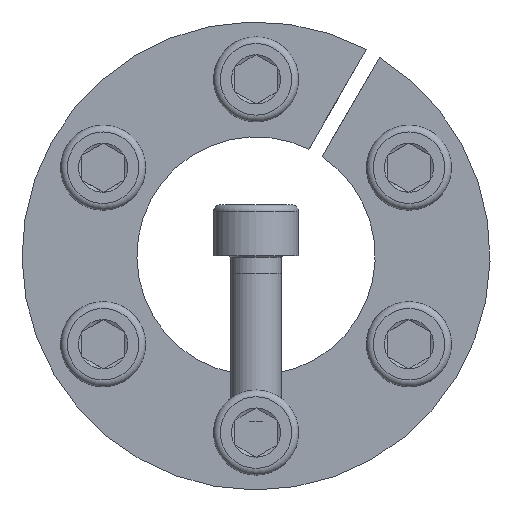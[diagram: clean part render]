
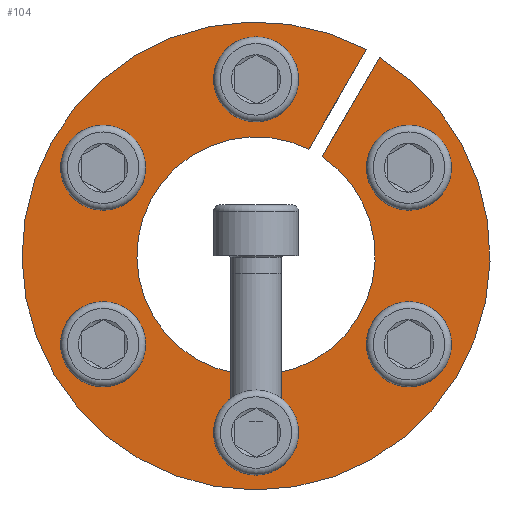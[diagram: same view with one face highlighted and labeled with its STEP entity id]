
A CAD part, front view. The second image highlights one B-rep face of the part: STEP entity #104.
In plain terms, the highlighted planar face has unit normal (0, -1, 0).
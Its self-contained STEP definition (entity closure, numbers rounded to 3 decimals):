
#104 = ADVANCED_FACE( '', ( #217, #218, #219, #220, #221, #222, #223 ), #224, .F. );
#217 = FACE_BOUND( '', #351, .T. );
#218 = FACE_BOUND( '', #352, .T. );
#219 = FACE_BOUND( '', #353, .T. );
#220 = FACE_OUTER_BOUND( '', #354, .T. );
#221 = FACE_BOUND( '', #355, .T. );
#222 = FACE_BOUND( '', #356, .T. );
#223 = FACE_BOUND( '', #357, .T. );
#224 = PLANE( '', #358 );
#351 = EDGE_LOOP( '', ( #580 ) );
#352 = EDGE_LOOP( '', ( #581 ) );
#353 = EDGE_LOOP( '', ( #582 ) );
#354 = EDGE_LOOP( '', ( #583, #584, #585, #586 ) );
#355 = EDGE_LOOP( '', ( #587 ) );
#356 = EDGE_LOOP( '', ( #588 ) );
#357 = EDGE_LOOP( '', ( #589 ) );
#358 = AXIS2_PLACEMENT_3D( '', #590, #591, #592 );
#580 = ORIENTED_EDGE( '', *, *, #720, .T. );
#581 = ORIENTED_EDGE( '', *, *, #746, .T. );
#582 = ORIENTED_EDGE( '', *, *, #735, .T. );
#583 = ORIENTED_EDGE( '', *, *, #754, .F. );
#584 = ORIENTED_EDGE( '', *, *, #759, .F. );
#585 = ORIENTED_EDGE( '', *, *, #711, .T. );
#586 = ORIENTED_EDGE( '', *, *, #764, .F. );
#587 = ORIENTED_EDGE( '', *, *, #743, .T. );
#588 = ORIENTED_EDGE( '', *, *, #723, .T. );
#589 = ORIENTED_EDGE( '', *, *, #717, .T. );
#590 = CARTESIAN_POINT( '', ( 0., 0., 27.5 ) );
#591 = DIRECTION( '', ( 0., 1., 0. ) );
#592 = DIRECTION( '', ( 0., 0., 1. ) );
#711 = EDGE_CURVE( '', #860, #861, #862, .T. );
#717 = EDGE_CURVE( '', #871, #871, #872, .T. );
#720 = EDGE_CURVE( '', #876, #876, #877, .T. );
#723 = EDGE_CURVE( '', #881, #881, #882, .T. );
#735 = EDGE_CURVE( '', #901, #901, #902, .T. );
#743 = EDGE_CURVE( '', #915, #915, #916, .T. );
#746 = EDGE_CURVE( '', #920, #920, #921, .T. );
#754 = EDGE_CURVE( '', #932, #934, #935, .T. );
#759 = EDGE_CURVE( '', #860, #932, #940, .T. );
#764 = EDGE_CURVE( '', #934, #861, #946, .T. );
#860 = VERTEX_POINT( '', #1133 );
#861 = VERTEX_POINT( '', #1134 );
#862 = CIRCLE( '', #1135, 27.5 );
#871 = VERTEX_POINT( '', #1146 );
#872 = CIRCLE( '', #1147, 3. );
#876 = VERTEX_POINT( '', #1151 );
#877 = CIRCLE( '', #1152, 3. );
#881 = VERTEX_POINT( '', #1156 );
#882 = CIRCLE( '', #1157, 3. );
#901 = VERTEX_POINT( '', #1178 );
#902 = CIRCLE( '', #1179, 3. );
#915 = VERTEX_POINT( '', #1198 );
#916 = CIRCLE( '', #1199, 3. );
#920 = VERTEX_POINT( '', #1203 );
#921 = CIRCLE( '', #1204, 3. );
#932 = VERTEX_POINT( '', #1217 );
#934 = VERTEX_POINT( '', #1220 );
#935 = CIRCLE( '', #1221, 14. );
#940 = LINE( '', #1229, #1230 );
#946 = LINE( '', #1237, #1238 );
#1133 = CARTESIAN_POINT( '', ( 12.962, 0., 24.254 ) );
#1134 = CARTESIAN_POINT( '', ( 14.523, 0., 23.352 ) );
#1135 = AXIS2_PLACEMENT_3D( '', #1311, #1312, #1313 );
#1146 = CARTESIAN_POINT( '', ( -16.47, 0., 12.973 ) );
#1147 = AXIS2_PLACEMENT_3D( '', #1322, #1323, #1324 );
#1151 = CARTESIAN_POINT( '', ( -19.47, 0., -7.777 ) );
#1152 = AXIS2_PLACEMENT_3D( '', #1328, #1329, #1330 );
#1156 = CARTESIAN_POINT( '', ( -3., 0., -20.75 ) );
#1157 = AXIS2_PLACEMENT_3D( '', #1334, #1335, #1336 );
#1178 = CARTESIAN_POINT( '', ( 3., 0., 20.75 ) );
#1179 = AXIS2_PLACEMENT_3D( '', #1357, #1358, #1359 );
#1198 = CARTESIAN_POINT( '', ( 19.47, 0., 7.777 ) );
#1199 = AXIS2_PLACEMENT_3D( '', #1369, #1370, #1371 );
#1203 = CARTESIAN_POINT( '', ( 16.47, 0., -12.973 ) );
#1204 = AXIS2_PLACEMENT_3D( '', #1375, #1376, #1377 );
#1217 = CARTESIAN_POINT( '', ( 6.205, 0., 12.55 ) );
#1220 = CARTESIAN_POINT( '', ( 7.766, 0., 11.648 ) );
#1221 = AXIS2_PLACEMENT_3D( '', #1387, #1388, #1389 );
#1229 = CARTESIAN_POINT( '', ( 12.969, 0., 24.267 ) );
#1230 = VECTOR( '', #1393, 1000. );
#1237 = CARTESIAN_POINT( '', ( 7.766, 0., 11.648 ) );
#1238 = VECTOR( '', #1398, 1000. );
#1311 = CARTESIAN_POINT( '', ( 0., 0., 0. ) );
#1312 = DIRECTION( '', ( 0., -1., 0. ) );
#1313 = DIRECTION( '', ( 0., 0., -1. ) );
#1322 = CARTESIAN_POINT( '', ( -17.97, 0., 10.375 ) );
#1323 = DIRECTION( '', ( 0., 1., 0. ) );
#1324 = DIRECTION( '', ( 0.5, 0., 0.866 ) );
#1328 = CARTESIAN_POINT( '', ( -17.97, 0., -10.375 ) );
#1329 = DIRECTION( '', ( 0., 1., 0. ) );
#1330 = DIRECTION( '', ( -0.5, 0., 0.866 ) );
#1334 = CARTESIAN_POINT( '', ( 0., 0., -20.75 ) );
#1335 = DIRECTION( '', ( 0., 1., 0. ) );
#1336 = DIRECTION( '', ( -1., 0., 0. ) );
#1357 = CARTESIAN_POINT( '', ( 0., 0., 20.75 ) );
#1358 = DIRECTION( '', ( 0., 1., 0. ) );
#1359 = DIRECTION( '', ( 1., 0., 0. ) );
#1369 = CARTESIAN_POINT( '', ( 17.97, 0., 10.375 ) );
#1370 = DIRECTION( '', ( 0., 1., 0. ) );
#1371 = DIRECTION( '', ( 0.5, 0., -0.866 ) );
#1375 = CARTESIAN_POINT( '', ( 17.97, 0., -10.375 ) );
#1376 = DIRECTION( '', ( 0., 1., 0. ) );
#1377 = DIRECTION( '', ( -0.5, 0., -0.866 ) );
#1387 = CARTESIAN_POINT( '', ( 0., 0., 0. ) );
#1388 = DIRECTION( '', ( 0., -1., 0. ) );
#1389 = DIRECTION( '', ( 0., 0., -1. ) );
#1393 = DIRECTION( '', ( -0.5, 0., -0.866 ) );
#1398 = DIRECTION( '', ( 0.5, 0., 0.866 ) );
